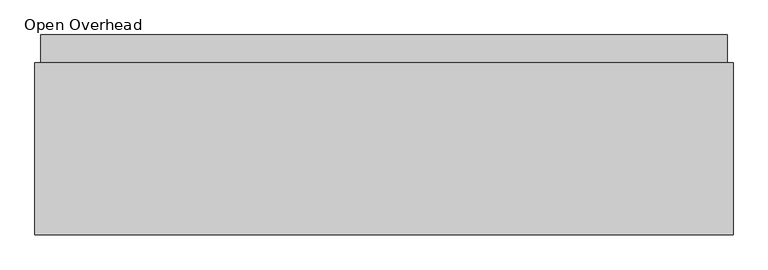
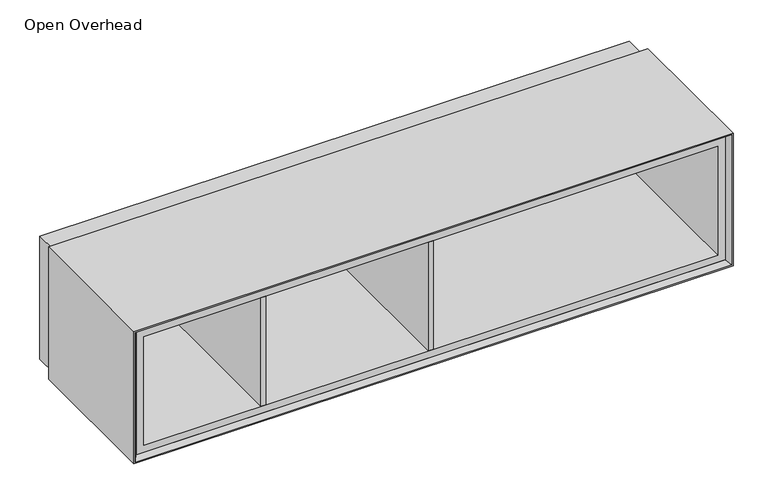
"""IFC4 building model written with IfcOpenShell, lengths in millimetres: furniture geometry."""

import ifcopenshell
import ifcopenshell.guid

model = None  # the IFC model being written
_history = None  # IfcOwnerHistory: only IFC2X3 demands one
_inside = {}  # id of a spatial element -> (the spatial element, [elements in it])
_under = {}  # id of a project, library or spatial element -> (it, [spatial elements below it])
_declared = {}  # id of a project -> (the project, [libraries it declares])
_typed = {}  # id of a type object -> (the type object, [elements of that type])
_made_of = {}  # id of a material, layer set ... -> (it, [elements and type objects made of it])


def new_model(schema):
    """Start an empty IFC model of exactly this schema.

    Asked for "IFC4X3", IfcOpenShell would pick the latest addendum, in which some entities
    have other attributes; the version numbers below select the first issue.
    IFC2X3 requires an IfcOwnerHistory on every rooted entity: one is made here for all.
    """
    global model, _history
    if schema == "IFC4X3":
        model = ifcopenshell.file(schema_version=(4, 3, 0, 0))
    else:
        model = ifcopenshell.file(schema=schema)
    _inside.clear()
    _under.clear()
    _declared.clear()
    _typed.clear()
    _made_of.clear()
    _history = None
    if model.schema == "IFC2X3":
        org = make("IfcOrganization", Name="unknown")
        user = make(
            "IfcPersonAndOrganization",
            ThePerson=make("IfcPerson", FamilyName="unknown"),
            TheOrganization=org,
        )
        app = make(
            "IfcApplication",
            ApplicationDeveloper=org,
            Version="unknown",
            ApplicationFullName="unknown",
            ApplicationIdentifier="unknown",
        )
        _history = make(
            "IfcOwnerHistory",
            OwningUser=user,
            OwningApplication=app,
            ChangeAction="ADDED",
            CreationDate=0,
        )
    return model


def make(cls, **values):
    """One entity of the class cls with the attributes given. An attribute that is None is left unset."""
    return model.create_entity(
        cls, **{name: value for name, value in values.items() if value is not None}
    )


def rooted(cls, **values):
    """An entity with a GlobalId (a new one), such as an element, a storey or a relation."""
    return make(cls, GlobalId=ifcopenshell.guid.new(), OwnerHistory=_history, **values)


def si_unit(unit_type, name, prefix=None):
    """IfcSIUnit, for example si_unit("LENGTHUNIT", "METRE", prefix="MILLI")."""
    return make("IfcSIUnit", UnitType=unit_type, Prefix=prefix, Name=name)


def assignment(units):
    """IfcUnitAssignment: the units of a project."""
    return None if units is None else make("IfcUnitAssignment", Units=units)


def point(xyz):
    """IfcCartesianPoint."""
    return None if xyz is None else make("IfcCartesianPoint", Coordinates=xyz)


def direction(xyz):
    """IfcDirection."""
    return None if xyz is None else make("IfcDirection", DirectionRatios=xyz)


def frame(location, z_axis=None, x_axis=None):
    """IfcAxis2Placement3D, a coordinate frame: its origin and axes. An axis left out is left unset."""
    return make(
        "IfcAxis2Placement3D",
        Location=point(location),
        Axis=direction(z_axis),
        RefDirection=direction(x_axis),
    )


def origin():
    """The frame at (0, 0, 0) with its axes left unset."""
    return frame((0.0, 0.0, 0.0))


def place(relative_to, where):
    """IfcLocalPlacement: puts the frame where relative to a parent placement (None: the world)."""
    return make(
        "IfcLocalPlacement", PlacementRelTo=relative_to, RelativePlacement=where
    )


def context(
    kind, dimensions, precision=None, world=None, true_north=None, identifier=None
):
    """IfcGeometricRepresentationContext, for example the 3D "Model" context."""
    return make(
        "IfcGeometricRepresentationContext",
        ContextIdentifier=identifier,
        ContextType=kind,
        CoordinateSpaceDimension=dimensions,
        Precision=precision,
        WorldCoordinateSystem=world,
        TrueNorth=true_north,
    )


def project(units=None, contexts=None):
    """IfcProject with its units and contexts."""
    return rooted(
        "IfcProject",
        Name="project",
        RepresentationContexts=contexts,
        UnitsInContext=assignment(units),
    )


def spatial(cls, under=None, at=None, **own):
    """A site, building, storey or space (cls), placed at a placement, below another one or the project."""
    s = rooted(cls, ObjectPlacement=at, **own)
    if under is not None:
        _under.setdefault(under.id(), (under, []))[1].append(s)
    return s


def polyline(points):
    """IfcPolyline through the points."""
    return make("IfcPolyline", Points=[point(p) for p in points])


def outline(outer, holes=None, kind="AREA"):
    """IfcArbitraryClosedProfileDef: a profile drawn as a closed curve; with holes, ...WithVoids."""
    if holes is None:
        return make("IfcArbitraryClosedProfileDef", ProfileType=kind, OuterCurve=outer)
    return make(
        "IfcArbitraryProfileDefWithVoids",
        ProfileType=kind,
        OuterCurve=outer,
        InnerCurves=holes,
    )


def extrude(swept, where, along, depth):
    """IfcExtrudedAreaSolid: the profile swept, set in the frame where, extruded along a direction by depth."""
    return make(
        "IfcExtrudedAreaSolid",
        SweptArea=swept,
        Position=where,
        ExtrudedDirection=direction(along),
        Depth=depth,
    )


def faces_of(points, faces, orient=None, outer=None):
    """IfcFace entities. A face is a list of loops; a loop is a list of indices into points, from 0.

    orient and outer hold one flag for each loop. By default every Orientation is true, the
    first loop of a face is its IfcFaceOuterBound and the others are IfcFaceBound.
    """
    made = []
    for i, loops in enumerate(faces):
        bounds = []
        for j, loop in enumerate(loops):
            is_outer = j == 0 if outer is None else outer[i][j]
            bounds.append(
                make(
                    "IfcFaceOuterBound" if is_outer else "IfcFaceBound",
                    Bound=make("IfcPolyLoop", Polygon=[points[k] for k in loop]),
                    Orientation=True if orient is None else orient[i][j],
                )
            )
        made.append(make("IfcFace", Bounds=bounds))
    return made


def faceted_brep(points, faces, orient=None, outer=None, voids=None):
    """IfcFacetedBrep: a solid bounded by flat faces; with voids (closed shells), ...WithVoids."""
    shared = [point(p) for p in points]
    hull = make("IfcClosedShell", CfsFaces=faces_of(shared, faces, orient, outer))
    if voids is None:
        return make("IfcFacetedBrep", Outer=hull)
    return make(
        "IfcFacetedBrepWithVoids",
        Outer=hull,
        Voids=[
            make(cls, CfsFaces=faces_of(shared, fs, o, b)) for cls, fs, o, b in voids
        ],
    )


def shape(context_of_items, identifier, shape_type, items):
    """IfcShapeRepresentation: the items that make up one representation, for example the "Body"."""
    return make(
        "IfcShapeRepresentation",
        ContextOfItems=context_of_items,
        RepresentationIdentifier=identifier,
        RepresentationType=shape_type,
        Items=items,
    )


def source(mapping_origin, context_of_items, identifier, shape_type, items):
    """IfcRepresentationMap: a shape defined once, which mapped items show again and again."""
    return make(
        "IfcRepresentationMap",
        MappingOrigin=mapping_origin,
        MappedRepresentation=shape(context_of_items, identifier, shape_type, items),
    )


def transform(
    local_origin,
    x_axis=None,
    y_axis=None,
    z_axis=None,
    scale=None,
    scale2=None,
    scale3=None,
    uniform=True,
):
    """IfcCartesianTransformationOperator3D, or its non-uniform kind. x_axis, y_axis, z_axis: its Axis1, 2, 3."""
    if uniform:
        return make(
            "IfcCartesianTransformationOperator3D",
            Axis1=direction(x_axis),
            Axis2=direction(y_axis),
            LocalOrigin=point(local_origin),
            Scale=scale,
            Axis3=direction(z_axis),
        )
    return make(
        "IfcCartesianTransformationOperator3DnonUniform",
        Axis1=direction(x_axis),
        Axis2=direction(y_axis),
        LocalOrigin=point(local_origin),
        Scale=scale,
        Axis3=direction(z_axis),
        Scale2=scale2,
        Scale3=scale3,
    )


def mapped(mapping_source, mapping_target):
    """IfcMappedItem: shows the shape of a source again, moved by a transform."""
    return make(
        "IfcMappedItem", MappingSource=mapping_source, MappingTarget=mapping_target
    )


def made_of(thing, what):
    """Note that an element or type object is made of a material, layer set ...; save() writes the relation."""
    if what is not None:
        _made_of.setdefault(what.id(), (what, []))[1].append(thing)
    return thing


def element(
    cls,
    number,
    at=None,
    inside=None,
    cuts=None,
    type_object=None,
    material=None,
    context=None,
    identifier="Body",
    shape_type=None,
    held_by="IfcProductDefinitionShape",
    body=None,
    shapes=None,
    **own,
):
    """One element of the class cls, such as IfcWall. Its Tag is "e" and its number.

    at: its placement. inside: the storey or other place that contains it. cuts: it is an
    opening in that element (IfcRelVoidsElement). A single representation is given by context,
    identifier, shape_type and body (its items); several are given by shapes. held_by: the class
    of the entity that holds the representations. save() writes the other relations.
    """
    e = rooted(cls, Tag="e%d" % number, ObjectPlacement=at, **own)
    if body is not None:
        shapes = [shape(context, identifier, shape_type, body)]
    if shapes is not None:
        e.Representation = make(held_by, Representations=shapes)
    if inside is not None:
        _inside.setdefault(inside.id(), (inside, []))[1].append(e)
    if cuts is not None:
        rooted(
            "IfcRelVoidsElement", RelatingBuildingElement=cuts, RelatedOpeningElement=e
        )
    if type_object is not None:
        _typed.setdefault(type_object.id(), (type_object, []))[1].append(e)
    return made_of(e, material)


def aggregate(whole, parts):
    """IfcRelAggregates: a whole, such as a stair, and the parts it consists of."""
    return rooted("IfcRelAggregates", RelatingObject=whole, RelatedObjects=parts)


def save(model, path):
    """Write the relations noted so far, then the file.

    IfcRelAggregates (storeys below a building ...), IfcRelContainedInSpatialStructure (elements
    in a storey), IfcRelDefinesByType, IfcRelAssociatesMaterial and IfcRelDeclares: one each for
    every whole, place, type object, material and project.
    """
    for whole, parts in _under.values():
        aggregate(whole, parts)
    for where, things in _inside.values():
        rooted(
            "IfcRelContainedInSpatialStructure",
            RelatedElements=things,
            RelatingStructure=where,
        )
    for kind, things in _typed.values():
        rooted("IfcRelDefinesByType", RelatedObjects=things, RelatingType=kind)
    for what, things in _made_of.values():
        rooted("IfcRelAssociatesMaterial", RelatedObjects=things, RelatingMaterial=what)
    for by, libraries in _declared.values():
        rooted("IfcRelDeclares", RelatingContext=by, RelatedDefinitions=libraries)
    model.write(path)


def open_overhead_374be3c5(model_context):
    return source(origin(), model_context, "Body", "SolidModel", [
        extrude(outline(polyline([(768.35, 376.2375), (768.35, 12.7), (755.65, 12.7), (755.65, 376.2375), (768.35, 376.2375)])), frame((0.0, 0.0, 1555.75), z_axis=(0.0, 0.0, 1.0), x_axis=(1.0, 0.0, 0.0)), (0.0, 0.0, 1.0), 292.1),
        extrude(outline(polyline([(342.9, 376.2375), (342.9, 12.7), (330.2, 12.7), (330.2, 376.2375), (342.9, 376.2375)])), frame((0.0, 0.0, 1555.75), z_axis=(0.0, 0.0, 1.0), x_axis=(1.0, 0.0, 0.0)), (0.0, 0.0, 1.0), 292.1),
        extrude(outline(polyline([(1511.3, 376.2375), (12.7, 376.2375), (12.7, 436.5625), (1511.3, 436.5625), (1511.3, 376.2375)])), frame((0.0, 0.0, 1536.7), z_axis=(0.0, 0.0, 1.0), x_axis=(1.0, 0.0, 0.0)), (0.0, 0.0, 1.0), 330.2),
        extrude(outline(polyline([(1866.9, 1511.3), (1866.9, 12.7), (1536.7, 12.7), (1536.7, 1511.3), (1866.9, 1511.3)]), holes=[polyline([(1847.85, 31.75), (1847.85, 1492.25), (1555.75, 1492.25), (1555.75, 31.75), (1847.85, 31.75)])]), frame((0.0, 12.7, 0.0), z_axis=(0.0, 1.0, 0.0), x_axis=(0.0, 0.0, 1.0)), (0.0, 0.0, 1.0), 363.5375),
        faceted_brep([(1511.3, 12.7, 1866.9), (1511.3, 376.2375, 1866.9), (1511.3, 376.2375, 1536.7), (1511.3, 12.7, 1536.7), (1520.825, 0.0, 1876.425), (1520.825, 0.0, 1527.175), (1524.0, 376.2375, 1879.6), (1524.0, 0.0, 1879.6), (1524.0, 0.0, 1524.0), (1524.0, 376.2375, 1524.0), (12.7, 376.2375, 1536.7), (12.7, 12.7, 1536.7), (3.175, 0.0, 1527.175), (0.0, 0.0, 1524.0), (0.0, 376.2375, 1524.0), (12.7, 376.2375, 1866.9), (12.7, 12.7, 1866.9), (3.175, 0.0, 1876.425), (0.0, 0.0, 1879.6), (0.0, 376.2375, 1879.6)], [[[0, 1, 2, 3]], [[4, 0, 3, 5]], [[6, 7, 8, 9]], [[3, 2, 10, 11]], [[5, 3, 11, 12]], [[9, 8, 13, 14]], [[11, 10, 15, 16]], [[12, 11, 16, 17]], [[14, 13, 18, 19]], [[9, 14, 19, 6], [1, 15, 10, 2]], [[16, 15, 1, 0]], [[17, 16, 0, 4]], [[7, 18, 13, 8], [5, 12, 17, 4]], [[19, 18, 7, 6]]]),
    ])


if __name__ == "__main__":
    model = new_model("IFC4")
    model_context = context("Model", 3, world=origin())
    ifc_project = project(units=[si_unit("LENGTHUNIT", "METRE", prefix="MILLI")], contexts=[model_context])
    site = spatial("IfcSite", under=ifc_project)
    building = spatial("IfcBuilding", under=site)
    placement = place(None, origin())
    open_overhead_shape = open_overhead_374be3c5(model_context)
    element("IfcFurniture", 1, ObjectType="Open Overhead : 2 3/8\" Backpanel - 60\" W", at=placement, inside=building, context=model_context, shape_type="MappedRepresentation", body=[
        mapped(open_overhead_shape, transform((0.0, 0.0, 0.0), x_axis=(1.0, 0.0, 0.0), y_axis=(0.0, 1.0, 0.0), z_axis=(0.0, 0.0, 1.0))),
    ])
    save(model, "model.ifc")
